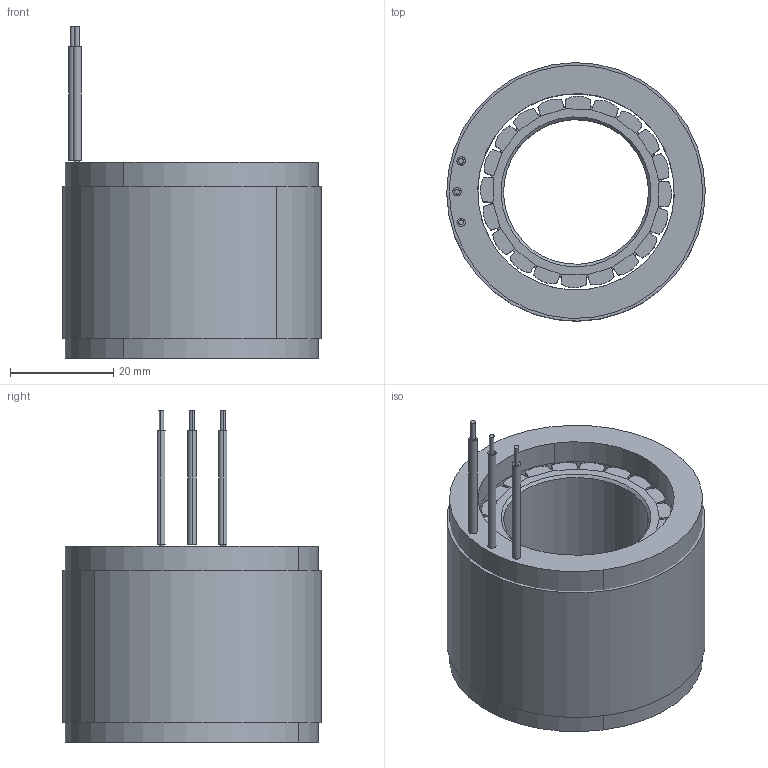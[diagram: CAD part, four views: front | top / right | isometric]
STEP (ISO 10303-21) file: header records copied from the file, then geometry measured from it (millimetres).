
FILE_DESCRIPTION (( 'STEP AP203' ), '1' );
FILE_NAME ('5037µç»ú-ÐÂ.STEP', '2025-02-20T01:02:30', ( '' ), ( '' ), 'SwSTEP 2.0', 'SolidWorks 2023', '' );
FILE_SCHEMA (( 'CONFIG_CONTROL_DESIGN' ));
Length unit declared in the file: millimetre
Products named in the file (1): 5037电机-新
Bounding box: 49.99 x 49.99 x 64.2 mm (x, y, z)
Surface area: 28199 mm2 (no closed solid volume)
Topology: 0 solids, 29 shells, 164 faces, 899 edges, 748 vertices
Faces by surface type: plane 94, cylinder 66, cone 4
Entity records: 8936 total; most frequent: CARTESIAN_POINT 1812, DIRECTION 1557, ORIENTED_EDGE 1170, EDGE_CURVE 899, VERTEX_POINT 748, LINE 571, VECTOR 571, AXIS2_PLACEMENT_3D 493
